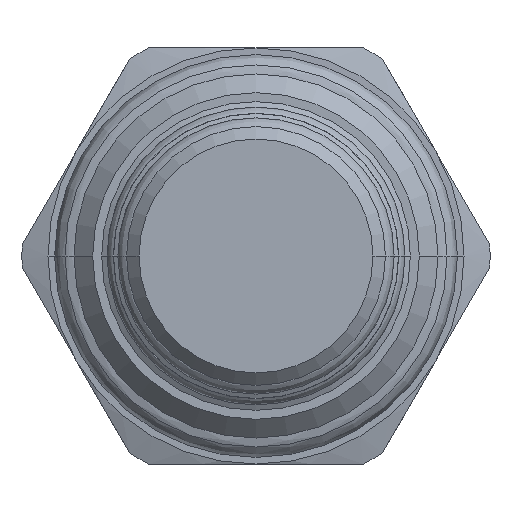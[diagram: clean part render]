
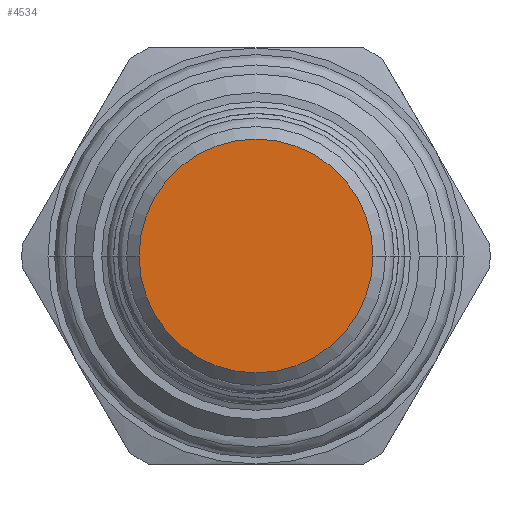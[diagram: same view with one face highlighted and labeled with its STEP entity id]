
A CAD part, front view. The second image highlights one B-rep face of the part: STEP entity #4534.
In plain terms, the highlighted planar face has unit normal (0, -1, 0).
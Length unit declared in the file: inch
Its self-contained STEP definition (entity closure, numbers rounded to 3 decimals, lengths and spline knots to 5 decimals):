
#1586=CARTESIAN_POINT('',(0.,-1.81251,0.));
#1587=DIRECTION('',(0.,-1.,0.));
#1588=DIRECTION('',(-1.,0.,0.));
#1589=AXIS2_PLACEMENT_3D('',#1586,#1587,#1588);
#1604=CARTESIAN_POINT('',(0.,-1.81251,0.));
#1605=DIRECTION('',(0.,1.,0.));
#1606=DIRECTION('',(-1.,0.,0.));
#1607=AXIS2_PLACEMENT_3D('',#1604,#1605,#1606);
#1999=CARTESIAN_POINT('',(-0.281,-1.81251,0.));
#2000=CARTESIAN_POINT('',(0.281,-1.81251,0.));
#2001=VERTEX_POINT('',#1999);
#2002=VERTEX_POINT('',#2000);
#4524=CARTESIAN_POINT('',(0.,-1.81251,0.));
#4525=DIRECTION('',(0.,-1.,0.));
#4526=DIRECTION('',(-1.,0.,0.));
#4527=AXIS2_PLACEMENT_3D('',#4524,#4525,#4526);
#4528=PLANE('',#4527);
#4529=ORIENTED_EDGE('',*,*,#4514,.F.);
#4531=ORIENTED_EDGE('',*,*,#4530,.T.);
#4532=EDGE_LOOP('',(#4529,#4531));
#4533=FACE_OUTER_BOUND('',#4532,.F.);
#4534=ADVANCED_FACE('',(#4533),#4528,.T.);
#1590=CIRCLE('',#1589,0.281);
#1608=CIRCLE('',#1607,0.281);
#4514=EDGE_CURVE('',#2001,#2002,#1590,.T.);
#4530=EDGE_CURVE('',#2001,#2002,#1608,.T.);
